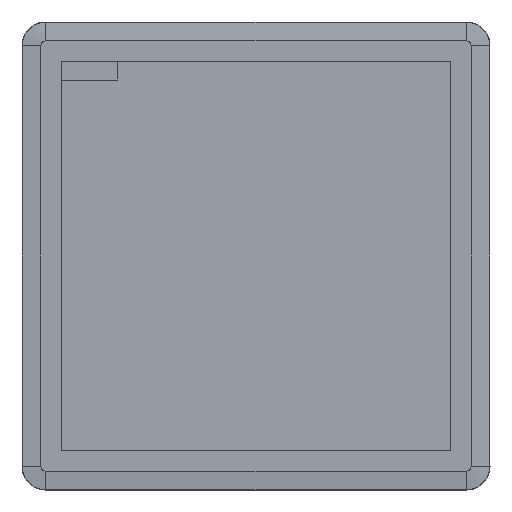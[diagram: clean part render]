
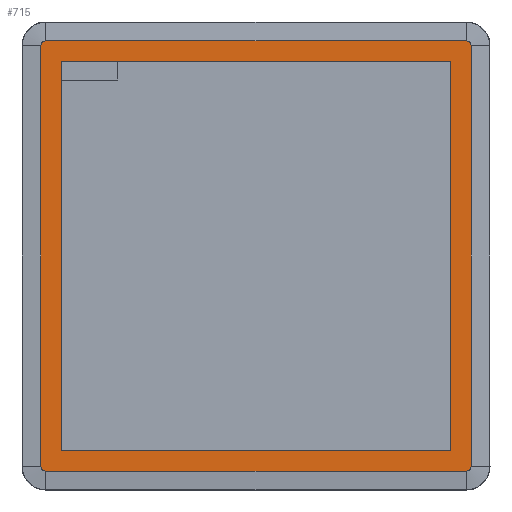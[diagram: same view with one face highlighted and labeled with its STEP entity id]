
A CAD part, front view. The second image highlights one B-rep face of the part: STEP entity #715.
In plain terms, the highlighted planar face has unit normal (0, -1, 0).
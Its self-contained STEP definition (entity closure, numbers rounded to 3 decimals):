
#71=FACE_BOUND('',#2198,.T.);
#715=ADVANCED_FACE('',(#1432,#71),#11739,.T.);
#1432=FACE_OUTER_BOUND('',#2197,.T.);
#2197=EDGE_LOOP('',(#4999,#5000,#5001,#5002,#5003,#5004,#5005,#5006));
#2198=EDGE_LOOP('',(#5007,#5008,#5009,#5010));
#4999=ORIENTED_EDGE('',*,*,#7390,.F.);
#5000=ORIENTED_EDGE('',*,*,#7387,.F.);
#5001=ORIENTED_EDGE('',*,*,#7394,.F.);
#5002=ORIENTED_EDGE('',*,*,#7401,.F.);
#5003=ORIENTED_EDGE('',*,*,#7406,.F.);
#5004=ORIENTED_EDGE('',*,*,#7420,.T.);
#5005=ORIENTED_EDGE('',*,*,#7402,.F.);
#5006=ORIENTED_EDGE('',*,*,#7396,.F.);
#5007=ORIENTED_EDGE('',*,*,#7424,.T.);
#5008=ORIENTED_EDGE('',*,*,#7421,.T.);
#5009=ORIENTED_EDGE('',*,*,#7422,.T.);
#5010=ORIENTED_EDGE('',*,*,#7423,.T.);
#7387=EDGE_CURVE('',#10932,#10933,#8792,.T.);
#7390=EDGE_CURVE('',#10933,#10935,#8795,.T.);
#7394=EDGE_CURVE('',#10938,#10932,#8799,.T.);
#7396=EDGE_CURVE('',#10935,#10939,#8801,.T.);
#7401=EDGE_CURVE('',#10942,#10938,#8806,.T.);
#7402=EDGE_CURVE('',#10939,#10943,#8807,.T.);
#7406=EDGE_CURVE('',#10946,#10942,#8811,.T.);
#7420=EDGE_CURVE('',#10946,#10943,#8817,.T.);
#7421=EDGE_CURVE('',#10947,#10948,#8818,.T.);
#7422=EDGE_CURVE('',#10948,#10949,#8819,.T.);
#7423=EDGE_CURVE('',#10949,#10950,#8820,.T.);
#7424=EDGE_CURVE('',#10950,#10947,#8821,.T.);
#8792=B_SPLINE_CURVE_WITH_KNOTS('',1,(#26427,#26428),.UNSPECIFIED.,.F.,.F.,
(2,2),(0.,1.),.UNSPECIFIED.);
#8795=B_SPLINE_CURVE_WITH_KNOTS('',3,(#26433,#26434,#26435,#26436,#26437,
#26438),.UNSPECIFIED.,.F.,.F.,(4,2,4),(-0.785,0.,
0.785),.UNSPECIFIED.);
#8799=B_SPLINE_CURVE_WITH_KNOTS('',3,(#26449,#26450,#26451,#26452,#26453,
#26454),.UNSPECIFIED.,.F.,.F.,(4,2,4),(-0.785,0.,
0.785),.UNSPECIFIED.);
#8801=B_SPLINE_CURVE_WITH_KNOTS('',1,(#26461,#26462),.UNSPECIFIED.,.F.,.F.,
(2,2),(0.,1.),.UNSPECIFIED.);
#8806=B_SPLINE_CURVE_WITH_KNOTS('',1,(#26471,#26472),.UNSPECIFIED.,.F.,.F.,
(2,2),(-1.,0.),.UNSPECIFIED.);
#8807=B_SPLINE_CURVE_WITH_KNOTS('',3,(#26473,#26474,#26475,#26476,#26477,
#26478),.UNSPECIFIED.,.F.,.F.,(4,2,4),(-0.785,0.,
0.785),.UNSPECIFIED.);
#8811=B_SPLINE_CURVE_WITH_KNOTS('',3,(#26489,#26490,#26491,#26492,#26493,
#26494),.UNSPECIFIED.,.F.,.F.,(4,2,4),(-0.785,0.,
0.785),.UNSPECIFIED.);
#8817=B_SPLINE_CURVE_WITH_KNOTS('',1,(#26573,#26574),.UNSPECIFIED.,.F.,.F.,
(2,2),(0.,1.),.UNSPECIFIED.);
#8818=B_SPLINE_CURVE_WITH_KNOTS('',1,(#26575,#26576),.UNSPECIFIED.,.F.,.F.,
(2,2),(-4.,-3.),.UNSPECIFIED.);
#8819=B_SPLINE_CURVE_WITH_KNOTS('',1,(#26577,#26578),.UNSPECIFIED.,.F.,.F.,
(2,2),(-3.,-2.),.UNSPECIFIED.);
#8820=B_SPLINE_CURVE_WITH_KNOTS('',1,(#26579,#26580),.UNSPECIFIED.,.F.,.F.,
(2,2),(-2.,-1.),.UNSPECIFIED.);
#8821=B_SPLINE_CURVE_WITH_KNOTS('',1,(#26581,#26582),.UNSPECIFIED.,.F.,.F.,
(2,2),(-1.,0.),.UNSPECIFIED.);
#10932=VERTEX_POINT('',#26317);
#10933=VERTEX_POINT('',#26318);
#10935=VERTEX_POINT('',#26320);
#10938=VERTEX_POINT('',#26323);
#10939=VERTEX_POINT('',#26324);
#10942=VERTEX_POINT('',#26327);
#10943=VERTEX_POINT('',#26328);
#10946=VERTEX_POINT('',#26331);
#10947=VERTEX_POINT('',#26332);
#10948=VERTEX_POINT('',#26333);
#10949=VERTEX_POINT('',#26334);
#10950=VERTEX_POINT('',#26335);
#11739=PLANE('',#12544);
#12544=AXIS2_PLACEMENT_3D('',#26281,#12938,$);
#12938=DIRECTION('',(0.,-1.,0.));
#26281=CARTESIAN_POINT('',(-137.481,-30.5,137.481));
#26317=CARTESIAN_POINT('',(112.074,-30.5,-114.555));
#26318=CARTESIAN_POINT('',(-112.074,-30.5,-114.555));
#26320=CARTESIAN_POINT('',(-114.555,-30.5,-112.074));
#26323=CARTESIAN_POINT('',(114.555,-30.5,-112.074));
#26324=CARTESIAN_POINT('',(-114.555,-30.5,112.074));
#26327=CARTESIAN_POINT('',(114.555,-30.5,112.074));
#26328=CARTESIAN_POINT('',(-112.074,-30.5,114.555));
#26331=CARTESIAN_POINT('',(112.074,-30.5,114.555));
#26332=CARTESIAN_POINT('',(-103.734,-30.5,103.734));
#26333=CARTESIAN_POINT('',(103.734,-30.5,103.734));
#26334=CARTESIAN_POINT('',(103.734,-30.5,-103.734));
#26335=CARTESIAN_POINT('',(-103.734,-30.5,-103.734));
#26427=CARTESIAN_POINT('',(112.074,-30.5,-114.555));
#26428=CARTESIAN_POINT('',(-112.074,-30.5,-114.555));
#26433=CARTESIAN_POINT('',(-112.074,-30.5,-114.555));
#26434=CARTESIAN_POINT('',(-112.725,-30.5,-114.558));
#26435=CARTESIAN_POINT('',(-113.369,-30.5,-114.288));
#26436=CARTESIAN_POINT('',(-114.288,-30.5,-113.369));
#26437=CARTESIAN_POINT('',(-114.558,-30.5,-112.725));
#26438=CARTESIAN_POINT('',(-114.555,-30.5,-112.074));
#26449=CARTESIAN_POINT('',(114.555,-30.5,-112.074));
#26450=CARTESIAN_POINT('',(114.558,-30.5,-112.725));
#26451=CARTESIAN_POINT('',(114.288,-30.5,-113.369));
#26452=CARTESIAN_POINT('',(113.369,-30.5,-114.288));
#26453=CARTESIAN_POINT('',(112.725,-30.5,-114.558));
#26454=CARTESIAN_POINT('',(112.074,-30.5,-114.555));
#26461=CARTESIAN_POINT('',(-114.555,-30.5,-112.074));
#26462=CARTESIAN_POINT('',(-114.555,-30.5,112.074));
#26471=CARTESIAN_POINT('',(114.555,-30.5,112.074));
#26472=CARTESIAN_POINT('',(114.555,-30.5,-112.074));
#26473=CARTESIAN_POINT('',(-114.555,-30.5,112.074));
#26474=CARTESIAN_POINT('',(-114.558,-30.5,112.725));
#26475=CARTESIAN_POINT('',(-114.288,-30.5,113.369));
#26476=CARTESIAN_POINT('',(-113.369,-30.5,114.288));
#26477=CARTESIAN_POINT('',(-112.725,-30.5,114.558));
#26478=CARTESIAN_POINT('',(-112.074,-30.5,114.555));
#26489=CARTESIAN_POINT('',(112.074,-30.5,114.555));
#26490=CARTESIAN_POINT('',(112.725,-30.5,114.558));
#26491=CARTESIAN_POINT('',(113.369,-30.5,114.288));
#26492=CARTESIAN_POINT('',(114.288,-30.5,113.369));
#26493=CARTESIAN_POINT('',(114.558,-30.5,112.725));
#26494=CARTESIAN_POINT('',(114.555,-30.5,112.074));
#26573=CARTESIAN_POINT('',(112.074,-30.5,114.555));
#26574=CARTESIAN_POINT('',(-112.074,-30.5,114.555));
#26575=CARTESIAN_POINT('',(-103.734,-30.5,103.734));
#26576=CARTESIAN_POINT('',(103.734,-30.5,103.734));
#26577=CARTESIAN_POINT('',(103.734,-30.5,103.734));
#26578=CARTESIAN_POINT('',(103.734,-30.5,-103.734));
#26579=CARTESIAN_POINT('',(103.734,-30.5,-103.734));
#26580=CARTESIAN_POINT('',(-103.734,-30.5,-103.734));
#26581=CARTESIAN_POINT('',(-103.734,-30.5,-103.734));
#26582=CARTESIAN_POINT('',(-103.734,-30.5,103.734));
